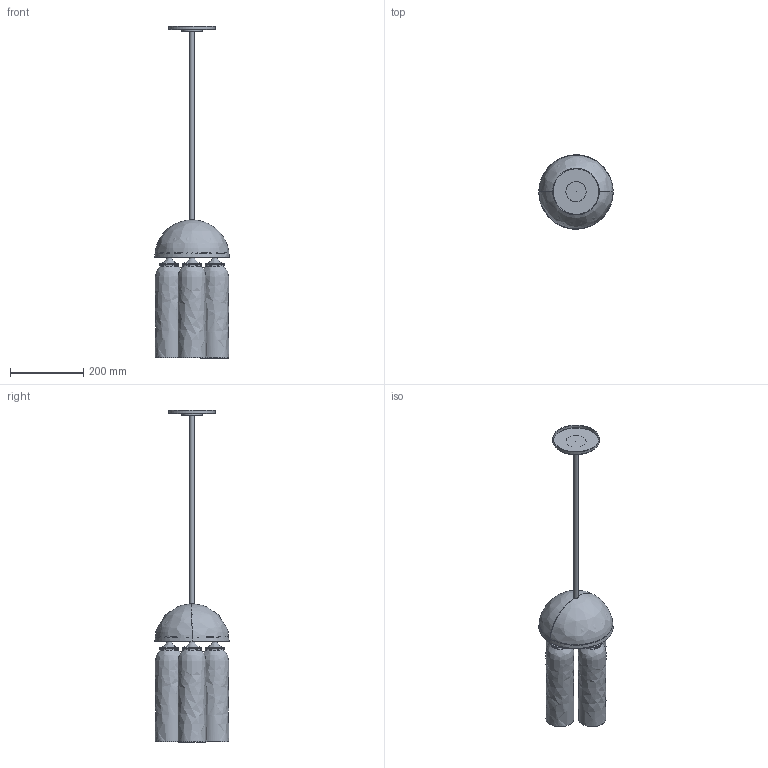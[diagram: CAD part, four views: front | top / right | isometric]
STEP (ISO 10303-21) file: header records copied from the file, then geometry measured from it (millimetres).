
FILE_DESCRIPTION(/* description */ (''),/* implementation_level */ '2;1');
FILE_NAME(/* name */ 'SkLO_AvroKO_CrownPendantShort_3D_LT633',/* time_stamp */ '2025-08-05T16:42:21+02:00',/* author */ (''),/* organization */ (''),/* preprocessor_version */ 'ST-DEVELOPER v16.5',/* originating_system */ 'Rhino 7.38',/* authorisation */ '');
FILE_SCHEMA (('CONFIG_CONTROL_DESIGN'));
Length unit declared in the file: millimetre
Products named in the file (1): Document
Bounding box: 203 x 202.88 x 905.49 mm (x, y, z)
Volume: 1513008.3 mm3; surface area: 810095.3 mm2
Topology: 34 solids, 35 shells, 262 faces, 525 edges, 310 vertices
Faces by surface type: bspline 119, plane 99, cylinder 44
Full cylindrical faces by diameter (mm): 10.2 x5, 11 x4, 13 x5, 18.275 x1, 25 x4, 34.074 x4, 36 x4, 38 x4, 40 x1, 50 x4, 52 x4, 124 x1, 127 x1
Entity records: 10190 total; most frequent: CARTESIAN_POINT 6759, ORIENTED_EDGE 1001, EDGE_CURVE 501, VERTEX_POINT 310, EDGE_LOOP 292, ADVANCED_FACE 262, FACE_OUTER_BOUND 262, B_SPLINE_CURVE_WITH_KNOTS 179
